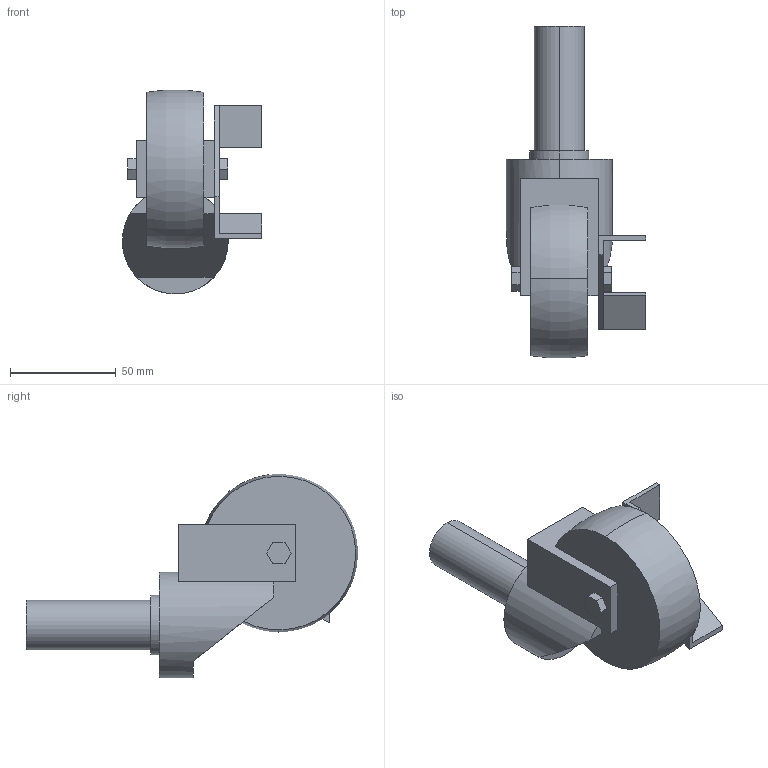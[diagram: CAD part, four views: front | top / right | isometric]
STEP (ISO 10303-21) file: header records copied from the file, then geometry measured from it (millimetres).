
FILE_DESCRIPTION (( 'STEP AP214' ), '1' );
FILE_NAME ('GES-75S.step', '2024-02-15T04:38:24', ( 'catia' ), ( 'HP Inc.' ), 'SwSTEP 2.0', 'SolidWorks 2021', '' );
FILE_SCHEMA (( 'AUTOMOTIVE_DESIGN' ));
Length unit declared in the file: millimetre
Products named in the file (1): GES-75S
Bounding box: 65.8 x 156.86 x 96.36 mm (x, y, z)
Volume: 230705.3 mm3; surface area: 32413 mm2
Topology: 1 solids, 1 shells, 56 faces, 144 edges, 94 vertices
Faces by surface type: plane 47, cylinder 6, torus 3
Entity records: 1736 total; most frequent: CARTESIAN_POINT 323, ORIENTED_EDGE 288, DIRECTION 278, EDGE_CURVE 144, VECTOR 116, LINE 116, VERTEX_POINT 94, AXIS2_PLACEMENT_3D 81
